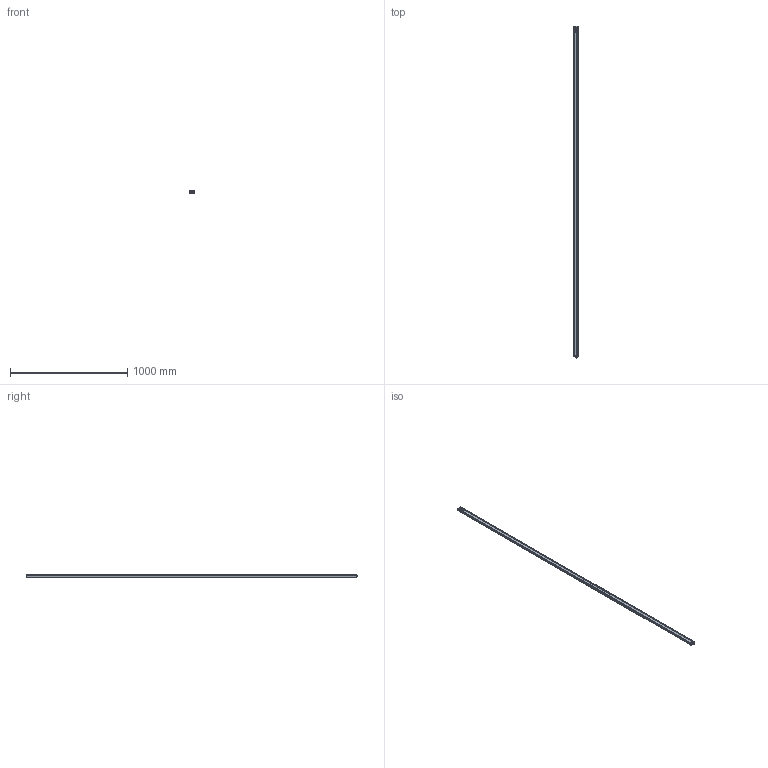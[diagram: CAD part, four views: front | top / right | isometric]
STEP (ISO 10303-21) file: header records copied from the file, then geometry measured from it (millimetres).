
FILE_DESCRIPTION(/* description */ (''),/* implementation_level */ '2;1');
FILE_NAME(/* name */ 'C:\Users\andre\SynologyDrive\Optoscan\Libreria Componenti\00 - Barriere\Barriera sorgente\Argo_2800_RX.stp',/* time_stamp */ '2021-04-23T12:50:20+02:00',/* author */ ('andre'),/* organization */ (''),/* preprocessor_version */ 'ST-DEVELOPER v18',/* originating_system */ 'Autodesk Inventor 2020',/* authorisation */ '');
FILE_SCHEMA (('AUTOMOTIVE_DESIGN { 1 0 10303 214 3 1 1 }'));
Length unit declared in the file: millimetre
Products named in the file (1): Argo_2800_RX
Bounding box: 40.5 x 2833.3 x 20.75 mm (x, y, z)
Volume: 555984.9 mm3; surface area: 740308.2 mm2
Topology: 1 solids, 1 shells, 676 faces, 1854 edges, 1185 vertices
Faces by surface type: plane 315, cylinder 191, bspline 94, torus 62, cone 8, sphere 6
Full cylindrical faces by diameter (mm): 1 x4, 2.5 x4, 3 x4, 3.5 x4, 5.5 x4, 8 x1, 10.5 x2, 11.75 x9, 15.7 x1, 17.5 x1
Entity records: 27592 total; most frequent: CARTESIAN_POINT 10103, ORIENTED_EDGE 3690, DIRECTION 3271, EDGE_CURVE 1845, VERTEX_POINT 1185, AXIS2_PLACEMENT_3D 1127, LINE 1017, VECTOR 1017
